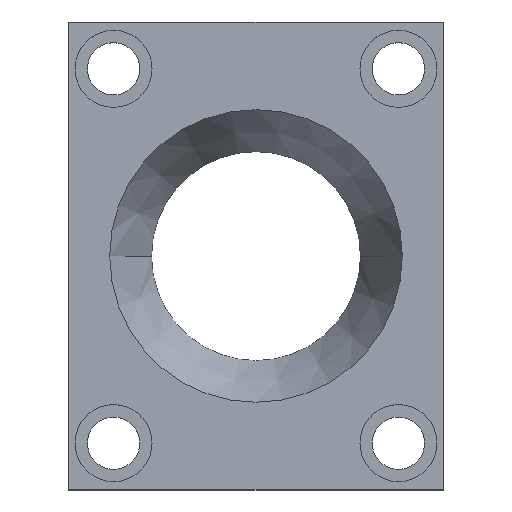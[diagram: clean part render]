
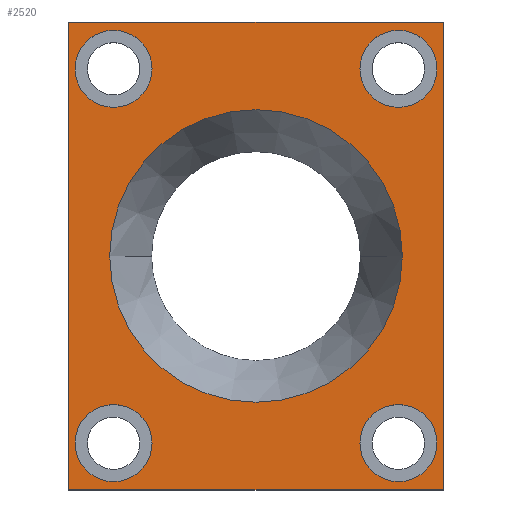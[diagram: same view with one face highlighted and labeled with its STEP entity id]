
A CAD part, top view. The second image highlights one B-rep face of the part: STEP entity #2520.
In plain terms, the highlighted planar face has unit normal (0, 0, 1).
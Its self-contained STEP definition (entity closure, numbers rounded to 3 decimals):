
#1250=CARTESIAN_POINT('',(170.398,24.832,-16.294));
#1260=VERTEX_POINT('',#1250);
#1290=CARTESIAN_POINT('',(170.398,39.617,-16.294));
#1300=DIRECTION('',(0.,1.,0.));
#1310=VECTOR('',#1300,1.);
#1320=LINE('',#1290,#1310);
#1330=CARTESIAN_POINT('',(170.398,68.012,-16.294));
#1340=VERTEX_POINT('',#1330);
#1350=EDGE_CURVE('',#1260,#1340,#1320,.T.);
#1470=CARTESIAN_POINT('',(153.126,46.422,-16.294));
#1480=DIRECTION('',(0.,0.,1.));
#1490=DIRECTION('',(1.,0.,0.));
#1500=AXIS2_PLACEMENT_3D('',#1470,#1480,#1490);
#1510=PLANE('',#1500);
#1520=CARTESIAN_POINT('',(135.854,39.617,-16.294));
#1530=DIRECTION('',(0.,-1.,0.));
#1540=VECTOR('',#1530,1.);
#1550=LINE('',#1520,#1540);
#1560=CARTESIAN_POINT('',(135.854,68.012,-16.294));
#1570=VERTEX_POINT('',#1560);
#1580=CARTESIAN_POINT('',(135.854,24.832,-16.294));
#1590=VERTEX_POINT('',#1580);
#1600=EDGE_CURVE('',#1570,#1590,#1550,.T.);
#1610=ORIENTED_EDGE('',*,*,#1600,.T.);
#1620=CARTESIAN_POINT('',(165.251,68.012,-16.294));
#1630=DIRECTION('',(-1.,0.,0.));
#1640=VECTOR('',#1630,1.);
#1650=LINE('',#1620,#1640);
#1660=EDGE_CURVE('',#1340,#1570,#1650,.T.);
#1670=ORIENTED_EDGE('',*,*,#1660,.T.);
#1680=ORIENTED_EDGE('',*,*,#1350,.T.);
#1690=CARTESIAN_POINT('',(165.251,24.832,-16.294));
#1700=DIRECTION('',(1.,0.,0.));
#1710=VECTOR('',#1700,1.);
#1720=LINE('',#1690,#1710);
#1730=EDGE_CURVE('',#1590,#1260,#1720,.T.);
#1740=ORIENTED_EDGE('',*,*,#1730,.T.);
#1750=EDGE_LOOP('',(#1740,#1680,#1670,#1610));
#1760=FACE_OUTER_BOUND('',#1750,.T.);
#1770=CARTESIAN_POINT('',(153.126,46.422,-16.294));
#1780=DIRECTION('',(0.,0.,1.));
#1790=DIRECTION('',(-1.,0.,0.));
#1800=AXIS2_PLACEMENT_3D('',#1770,#1780,#1790);
#1810=CIRCLE('',#1800,13.501);
#1820=CARTESIAN_POINT('',(139.625,46.422,-16.294));
#1830=VERTEX_POINT('',#1820);
#1840=CARTESIAN_POINT('',(166.626,46.422,-16.294));
#1850=VERTEX_POINT('',#1840);
#1860=EDGE_CURVE('',#1830,#1850,#1810,.T.);
#1870=ORIENTED_EDGE('',*,*,#1860,.F.);
#1880=EDGE_CURVE('',#1850,#1830,#1810,.T.);
#1890=ORIENTED_EDGE('',*,*,#1880,.F.);
#1900=EDGE_LOOP('',(#1890,#1870));
#1910=FACE_BOUND('',#1900,.T.);
#1920=CARTESIAN_POINT('',(166.27,63.694,-16.294));
#1930=DIRECTION('',(0.,0.,1.));
#1940=DIRECTION('',(1.,0.,0.));
#1950=AXIS2_PLACEMENT_3D('',#1920,#1930,#1940);
#1960=CIRCLE('',#1950,3.556);
#1970=CARTESIAN_POINT('',(169.826,63.694,-16.294));
#1980=VERTEX_POINT('',#1970);
#1990=CARTESIAN_POINT('',(162.714,63.694,-16.294));
#2000=VERTEX_POINT('',#1990);
#2010=EDGE_CURVE('',#1980,#2000,#1960,.T.);
#2020=ORIENTED_EDGE('',*,*,#2010,.F.);
#2030=EDGE_CURVE('',#2000,#1980,#1960,.T.);
#2040=ORIENTED_EDGE('',*,*,#2030,.F.);
#2050=EDGE_LOOP('',(#2040,#2020));
#2060=FACE_BOUND('',#2050,.T.);
#2070=CARTESIAN_POINT('',(139.981,29.15,-16.294));
#2080=DIRECTION('',(0.,0.,1.));
#2090=DIRECTION('',(1.,0.,0.));
#2100=AXIS2_PLACEMENT_3D('',#2070,#2080,#2090);
#2110=CIRCLE('',#2100,3.556);
#2120=CARTESIAN_POINT('',(143.537,29.15,-16.294));
#2130=VERTEX_POINT('',#2120);
#2140=CARTESIAN_POINT('',(136.425,29.15,-16.294));
#2150=VERTEX_POINT('',#2140);
#2160=EDGE_CURVE('',#2130,#2150,#2110,.T.);
#2170=ORIENTED_EDGE('',*,*,#2160,.F.);
#2180=EDGE_CURVE('',#2150,#2130,#2110,.T.);
#2190=ORIENTED_EDGE('',*,*,#2180,.F.);
#2200=EDGE_LOOP('',(#2190,#2170));
#2210=FACE_BOUND('',#2200,.T.);
#2220=CARTESIAN_POINT('',(139.981,63.694,-16.294));
#2230=DIRECTION('',(0.,0.,1.));
#2240=DIRECTION('',(1.,0.,0.));
#2250=AXIS2_PLACEMENT_3D('',#2220,#2230,#2240);
#2260=CIRCLE('',#2250,3.556);
#2270=CARTESIAN_POINT('',(143.537,63.694,-16.294));
#2280=VERTEX_POINT('',#2270);
#2290=CARTESIAN_POINT('',(136.425,63.694,-16.294));
#2300=VERTEX_POINT('',#2290);
#2310=EDGE_CURVE('',#2280,#2300,#2260,.T.);
#2320=ORIENTED_EDGE('',*,*,#2310,.F.);
#2330=EDGE_CURVE('',#2300,#2280,#2260,.T.);
#2340=ORIENTED_EDGE('',*,*,#2330,.F.);
#2350=EDGE_LOOP('',(#2340,#2320));
#2360=FACE_BOUND('',#2350,.T.);
#2370=CARTESIAN_POINT('',(166.27,29.15,-16.294));
#2380=DIRECTION('',(0.,0.,1.));
#2390=DIRECTION('',(1.,0.,0.));
#2400=AXIS2_PLACEMENT_3D('',#2370,#2380,#2390);
#2410=CIRCLE('',#2400,3.556);
#2420=CARTESIAN_POINT('',(169.826,29.15,-16.294));
#2430=VERTEX_POINT('',#2420);
#2440=CARTESIAN_POINT('',(162.714,29.15,-16.294));
#2450=VERTEX_POINT('',#2440);
#2460=EDGE_CURVE('',#2430,#2450,#2410,.T.);
#2470=ORIENTED_EDGE('',*,*,#2460,.F.);
#2480=EDGE_CURVE('',#2450,#2430,#2410,.T.);
#2490=ORIENTED_EDGE('',*,*,#2480,.F.);
#2500=EDGE_LOOP('',(#2490,#2470));
#2510=FACE_BOUND('',#2500,.T.);
#2520=ADVANCED_FACE('',(#1760,#1910,#2060,#2210,#2360,#2510),#1510,.T.);
